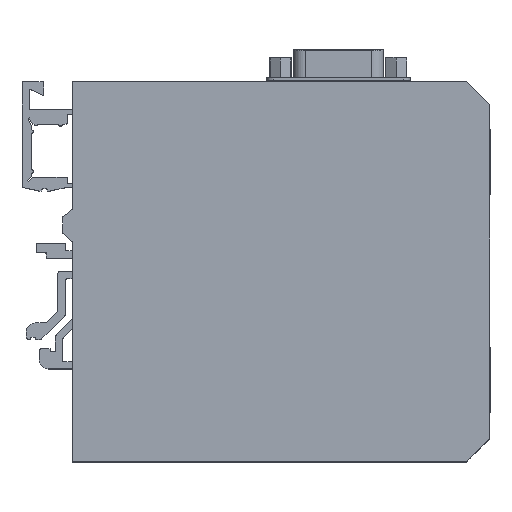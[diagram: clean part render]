
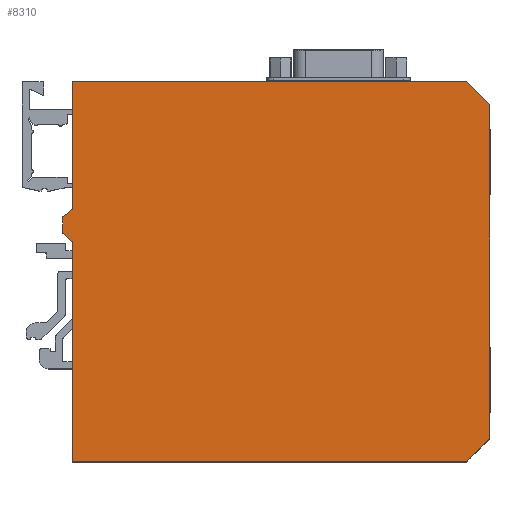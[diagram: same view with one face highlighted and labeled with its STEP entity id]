
A CAD part, top view. The second image highlights one B-rep face of the part: STEP entity #8310.
In plain terms, the highlighted planar face has unit normal (0, 0, 1).
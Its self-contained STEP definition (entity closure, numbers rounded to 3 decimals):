
#988 = CARTESIAN_POINT ( 'NONE',  ( 84.419, 10.704, 72.218 ) ) ;
#1089 = EDGE_CURVE ( 'NONE', #60142, #116690, #242573, .T. ) ;
#3421 = ORIENTED_EDGE ( 'NONE', *, *, #256163, .F. ) ;
#3985 = VERTEX_POINT ( 'NONE', #213196 ) ;
#8310 = ADVANCED_FACE ( 'NONE', ( #65321 ), #124895, .F. ) ;
#8544 = CIRCLE ( 'NONE', #88029, 0.3 ) ;
#11995 = ORIENTED_EDGE ( 'NONE', *, *, #154414, .F. ) ;
#13438 = VERTEX_POINT ( 'NONE', #212856 ) ;
#16689 = DIRECTION ( 'NONE',  ( 0., 1., 0. ) ) ;
#17175 = CARTESIAN_POINT ( 'NONE',  ( -7.365, 55.109, 72.218 ) ) ;
#18012 = VECTOR ( 'NONE', #117586, 1000. ) ;
#22661 = AXIS2_PLACEMENT_3D ( 'NONE', #155071, #28603, #176330 ) ;
#26042 = LINE ( 'NONE', #94545, #131698 ) ;
#27598 = CARTESIAN_POINT ( 'NONE',  ( -7.564, 54.884, 72.218 ) ) ;
#28603 = DIRECTION ( 'NONE',  ( 0., 0., 1. ) ) ;
#33613 = CARTESIAN_POINT ( 'NONE',  ( 84.419, 10.704, 72.218 ) ) ;
#35815 = CARTESIAN_POINT ( 'NONE',  ( -7.365, 58.341, 72.218 ) ) ;
#37259 = ORIENTED_EDGE ( 'NONE', *, *, #270448, .F. ) ;
#37529 = ORIENTED_EDGE ( 'NONE', *, *, #106627, .F. ) ;
#38294 = DIRECTION ( 'NONE',  ( 1., 0., 0. ) ) ;
#39595 = VECTOR ( 'NONE', #16689, 1000. ) ;
#40828 = CARTESIAN_POINT ( 'NONE',  ( -5.669, 59.992, 72.218 ) ) ;
#45114 = AXIS2_PLACEMENT_3D ( 'NONE', #221229, #94723, #242519 ) ;
#47103 = EDGE_CURVE ( 'NONE', #119900, #123830, #114613, .T. ) ;
#48832 = DIRECTION ( 'NONE',  ( -0.75, 0.662, 0. ) ) ;
#49529 = VECTOR ( 'NONE', #230996, 1000. ) ;
#51495 = VERTEX_POINT ( 'NONE', #267200 ) ;
#51536 = CARTESIAN_POINT ( 'NONE',  ( -5.581, 53., 72.218 ) ) ;
#57045 = DIRECTION ( 'NONE',  ( 1., 0., 0. ) ) ;
#58139 = CARTESIAN_POINT ( 'NONE',  ( -5.581, 5.704, 72.218 ) ) ;
#60142 = VERTEX_POINT ( 'NONE', #96932 ) ;
#62130 = CARTESIAN_POINT ( 'NONE',  ( -5.581, 5.704, 72.218 ) ) ;
#65321 = FACE_OUTER_BOUND ( 'NONE', #180242, .T. ) ;
#72306 = ORIENTED_EDGE ( 'NONE', *, *, #140185, .F. ) ;
#77010 = LINE ( 'NONE', #118313, #238835 ) ;
#79286 = CARTESIAN_POINT ( 'NONE',  ( -7.665, 58.341, 72.218 ) ) ;
#80332 = VERTEX_POINT ( 'NONE', #79286 ) ;
#83132 = VERTEX_POINT ( 'NONE', #51536 ) ;
#83322 = CARTESIAN_POINT ( 'NONE',  ( -7.665, 58.341, 72.218 ) ) ;
#83987 = VERTEX_POINT ( 'NONE', #62130 ) ;
#87674 = CARTESIAN_POINT ( 'NONE',  ( -7.665, 55.109, 72.218 ) ) ;
#87826 = CARTESIAN_POINT ( 'NONE',  ( 84.419, 10.704, 72.218 ) ) ;
#88029 = AXIS2_PLACEMENT_3D ( 'NONE', #35815, #183579, #57045 ) ;
#94545 = CARTESIAN_POINT ( 'NONE',  ( -5.581, 60.204, 72.218 ) ) ;
#94723 = DIRECTION ( 'NONE',  ( 0., 0., 1. ) ) ;
#94820 = ORIENTED_EDGE ( 'NONE', *, *, #250598, .F. ) ;
#96932 = CARTESIAN_POINT ( 'NONE',  ( 84.419, 82.704, 72.218 ) ) ;
#97055 = DIRECTION ( 'NONE',  ( -1., 0., 0. ) ) ;
#104515 = DIRECTION ( 'NONE',  ( 0., 0., -1. ) ) ;
#105478 = LINE ( 'NONE', #158413, #211226 ) ;
#105600 = CARTESIAN_POINT ( 'NONE',  ( -7.564, 54.884, 72.218 ) ) ;
#106627 = EDGE_CURVE ( 'NONE', #116690, #13438, #124004, .T. ) ;
#109360 = AXIS2_PLACEMENT_3D ( 'NONE', #17175, #164855, #38294 ) ;
#111791 = EDGE_CURVE ( 'NONE', #13438, #83987, #77010, .T. ) ;
#114170 = LINE ( 'NONE', #27598, #219861 ) ;
#114613 = CIRCLE ( 'NONE', #109360, 0.3 ) ;
#115803 = DIRECTION ( 'NONE',  ( 0., 1., 0. ) ) ;
#116690 = VERTEX_POINT ( 'NONE', #87826 ) ;
#117586 = DIRECTION ( 'NONE',  ( 0., -1., 0. ) ) ;
#118313 = CARTESIAN_POINT ( 'NONE',  ( 79.419, 5.704, 72.218 ) ) ;
#119206 = ORIENTED_EDGE ( 'NONE', *, *, #231602, .F. ) ;
#119738 = VERTEX_POINT ( 'NONE', #122382 ) ;
#119900 = VERTEX_POINT ( 'NONE', #105600 ) ;
#122382 = CARTESIAN_POINT ( 'NONE',  ( 79.419, 87.704, 72.218 ) ) ;
#123830 = VERTEX_POINT ( 'NONE', #87674 ) ;
#124004 = LINE ( 'NONE', #988, #265949 ) ;
#124895 = PLANE ( 'NONE',  #207856 ) ;
#128298 = DIRECTION ( 'NONE',  ( -0.707, -0.707, 0. ) ) ;
#131698 = VECTOR ( 'NONE', #115803, 1000. ) ;
#136400 = ORIENTED_EDGE ( 'NONE', *, *, #1089, .F. ) ;
#137331 = VECTOR ( 'NONE', #267335, 1000. ) ;
#140001 = EDGE_CURVE ( 'NONE', #83132, #51495, #263050, .T. ) ;
#140185 = EDGE_CURVE ( 'NONE', #80332, #192463, #8544, .T. ) ;
#143955 = LINE ( 'NONE', #246141, #137331 ) ;
#145367 = VECTOR ( 'NONE', #214662, 1000. ) ;
#148488 = VERTEX_POINT ( 'NONE', #261077 ) ;
#151968 = LINE ( 'NONE', #234068, #145367 ) ;
#154414 = EDGE_CURVE ( 'NONE', #83987, #83132, #208136, .T. ) ;
#155071 = CARTESIAN_POINT ( 'NONE',  ( -5.881, 53., 72.218 ) ) ;
#158413 = CARTESIAN_POINT ( 'NONE',  ( 79.419, 87.704, 72.218 ) ) ;
#162556 = EDGE_CURVE ( 'NONE', #3985, #148488, #26042, .T. ) ;
#164855 = DIRECTION ( 'NONE',  ( 0., 0., -1. ) ) ;
#168391 = ORIENTED_EDGE ( 'NONE', *, *, #111791, .F. ) ;
#168449 = LINE ( 'NONE', #83322, #49529 ) ;
#176330 = DIRECTION ( 'NONE',  ( -1., 0., 0. ) ) ;
#179636 = DIRECTION ( 'NONE',  ( 1., 0., 0. ) ) ;
#180242 = EDGE_LOOP ( 'NONE', ( #241872, #37259, #119206, #72306, #247194, #249415, #3421, #230262, #11995, #168391, #37529, #136400, #94820, #271028 ) ) ;
#183579 = DIRECTION ( 'NONE',  ( 0., 0., -1. ) ) ;
#188854 = EDGE_CURVE ( 'NONE', #123830, #80332, #168449, .T. ) ;
#192463 = VERTEX_POINT ( 'NONE', #212784 ) ;
#207856 = AXIS2_PLACEMENT_3D ( 'NONE', #231000, #104515, #252277 ) ;
#208136 = LINE ( 'NONE', #58139, #39595 ) ;
#211226 = VECTOR ( 'NONE', #179636, 1000. ) ;
#212784 = CARTESIAN_POINT ( 'NONE',  ( -7.545, 58.58, 72.218 ) ) ;
#212856 = CARTESIAN_POINT ( 'NONE',  ( 79.419, 5.704, 72.218 ) ) ;
#213196 = CARTESIAN_POINT ( 'NONE',  ( -5.581, 60.204, 72.218 ) ) ;
#214662 = DIRECTION ( 'NONE',  ( 0.799, 0.601, 0. ) ) ;
#219861 = VECTOR ( 'NONE', #48832, 1000. ) ;
#221229 = CARTESIAN_POINT ( 'NONE',  ( -5.881, 60.204, 72.218 ) ) ;
#230262 = ORIENTED_EDGE ( 'NONE', *, *, #140001, .F. ) ;
#230996 = DIRECTION ( 'NONE',  ( 0., 1., 0. ) ) ;
#231000 = CARTESIAN_POINT ( 'NONE',  ( -5.881, 53., 72.218 ) ) ;
#231602 = EDGE_CURVE ( 'NONE', #192463, #258710, #151968, .T. ) ;
#234068 = CARTESIAN_POINT ( 'NONE',  ( -5.669, 59.992, 72.218 ) ) ;
#238835 = VECTOR ( 'NONE', #97055, 1000. ) ;
#241872 = ORIENTED_EDGE ( 'NONE', *, *, #162556, .F. ) ;
#242519 = DIRECTION ( 'NONE',  ( 1., 0., 0. ) ) ;
#242573 = LINE ( 'NONE', #33613, #18012 ) ;
#246141 = CARTESIAN_POINT ( 'NONE',  ( 84.419, 82.704, 72.218 ) ) ;
#247194 = ORIENTED_EDGE ( 'NONE', *, *, #188854, .F. ) ;
#249415 = ORIENTED_EDGE ( 'NONE', *, *, #47103, .F. ) ;
#250598 = EDGE_CURVE ( 'NONE', #119738, #60142, #143955, .T. ) ;
#252277 = DIRECTION ( 'NONE',  ( -1., 0., 0. ) ) ;
#252967 = EDGE_CURVE ( 'NONE', #148488, #119738, #105478, .T. ) ;
#256163 = EDGE_CURVE ( 'NONE', #51495, #119900, #114170, .T. ) ;
#258710 = VERTEX_POINT ( 'NONE', #40828 ) ;
#261077 = CARTESIAN_POINT ( 'NONE',  ( -5.581, 87.704, 72.218 ) ) ;
#263050 = CIRCLE ( 'NONE', #22661, 0.3 ) ;
#265949 = VECTOR ( 'NONE', #128298, 1000. ) ;
#267200 = CARTESIAN_POINT ( 'NONE',  ( -5.669, 53.212, 72.218 ) ) ;
#267335 = DIRECTION ( 'NONE',  ( 0.707, -0.707, 0. ) ) ;
#270448 = EDGE_CURVE ( 'NONE', #258710, #3985, #273699, .T. ) ;
#271028 = ORIENTED_EDGE ( 'NONE', *, *, #252967, .F. ) ;
#273699 = CIRCLE ( 'NONE', #45114, 0.3 ) ;
